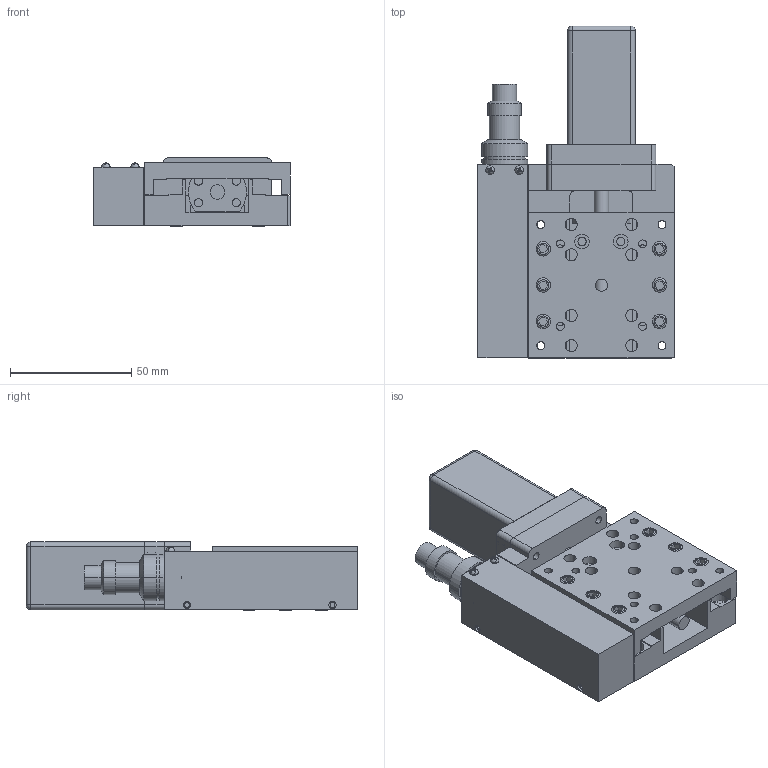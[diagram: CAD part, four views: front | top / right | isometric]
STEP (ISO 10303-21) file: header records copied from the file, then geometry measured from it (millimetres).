
FILE_DESCRIPTION (( 'STEP AP203' ), '1' );
FILE_NAME ('×°ÅäÌå1.STEP', '2022-10-08T12:54:34', ( '' ), ( '' ), 'SwSTEP 2.0', 'SolidWorks 2016', '' );
FILE_SCHEMA (( 'CONFIG_CONTROL_DESIGN' ));
Length unit declared in the file: millimetre
Products named in the file (1): 蚾饜极1
Bounding box: 81 x 137 x 28.1 mm (x, y, z)
Surface area: 50506.5 mm2 (no closed solid volume)
Topology: 0 solids, 30 shells, 423 faces, 1291 edges, 899 vertices
Faces by surface type: plane 225, cylinder 154, torus 32, sphere 8, cone 4
Entity records: 14759 total; most frequent: DIRECTION 2685, CARTESIAN_POINT 2618, ORIENTED_EDGE 2216, EDGE_CURVE 1279, AXIS2_PLACEMENT_3D 986, VERTEX_POINT 895, VECTOR 713, LINE 713
